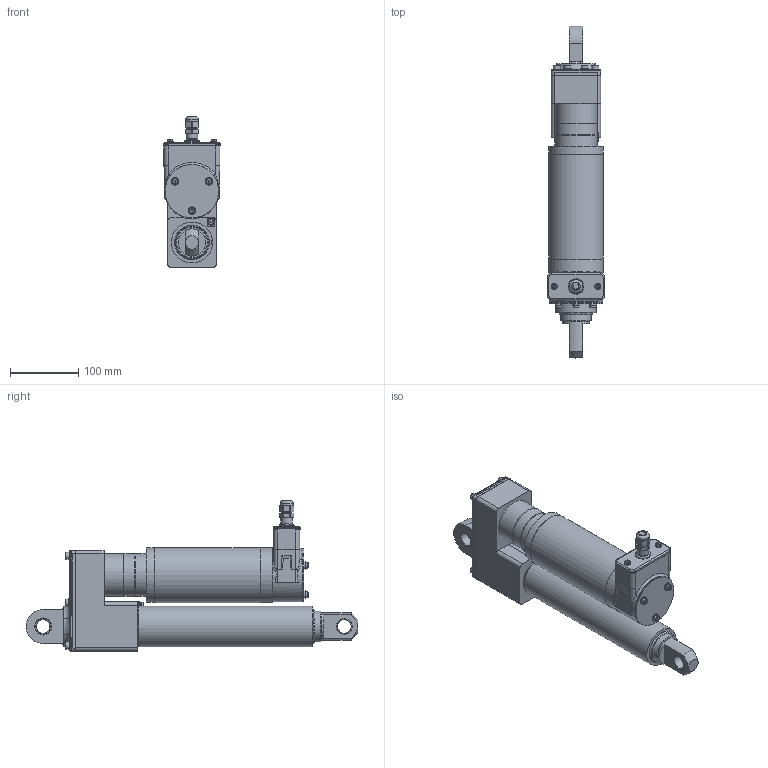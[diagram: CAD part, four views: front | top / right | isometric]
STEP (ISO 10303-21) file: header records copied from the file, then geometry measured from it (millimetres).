
FILE_DESCRIPTION(/* description */ ('Unknown'),/* implementation_level */ '2;1');
FILE_NAME(/* name */ 'T6N4-DC-0200-163-972-2',/* time_stamp */ '2025-07-21T09:56:16+02:00',/* author */ ('Unknown'),/* organization */ ('Unknown'),/* preprocessor_version */ 'ST-DEVELOPER v19.4',/* originating_system */ 'Solid Edge',/* authorisation */ 'Unknown');
FILE_SCHEMA (('AUTOMOTIVE_DESIGN {1 0 10303 214 3 1 1}'));
Products named in the file (8): T6N4-DC-0200-163-972-2; 12.01-04 6-20kN; 01.01-C4-140_kpl_Gabelauge; 12.02-04  6-20kN; DOM-Anschlusskabel_oa_0; 01.15-04-0200 6-20kN; 02.14-04-0200 6-20kN; PLG-Motor-DC
Assembly tree (7 placements, depth 2):
  T6N4-DC-0200-163-972-2
    12.01-04 6-20kN
    01.01-C4-140_kpl_Gabelauge
    12.02-04  6-20kN
    DOM-Anschlusskabel_oa_0
    01.15-04-0200 6-20kN
    02.14-04-0200 6-20kN
    PLG-Motor-DC
Bounding box: 83 x 485 x 219.55 mm (x, y, z)
Volume: 3095079.3 mm3; surface area: 333206.6 mm2
Topology: 7 solids, 18 shells, 3059 faces, 10693 edges, 6858 vertices
Faces by surface type: plane 2611, cylinder 269, cone 76, torus 53, bspline 50
Full cylindrical faces by diameter (mm): 1 x4, 1.5 x1, 2 x12, 4 x2, 4.01 x2, 4.02 x1, 4.134 x2, 4.3 x2, 4.773 x6, 4.917 x12, 5 x5, 5.1 x1, 5.3 x2, 5.4 x1, 6 x14, 6.15 x2, 6.5 x4, 6.6 x6, 8 x1, 8.5 x3, 8.7 x1, 8.9 x1, 9 x5, 10 x9, 11 x7, 12.4 x1, 13.4 x1, 13.5 x2, 13.86 x2, 15 x1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
Entity records: 139344 total; most frequent: CARTESIAN_POINT 23534, ORIENTED_EDGE 20702, DIRECTION 19560, EDGE_CURVE 10351, VERTEX_POINT 6768, AXIS2_PLACEMENT_3D 6626, LINE 6308, VECTOR 6308
